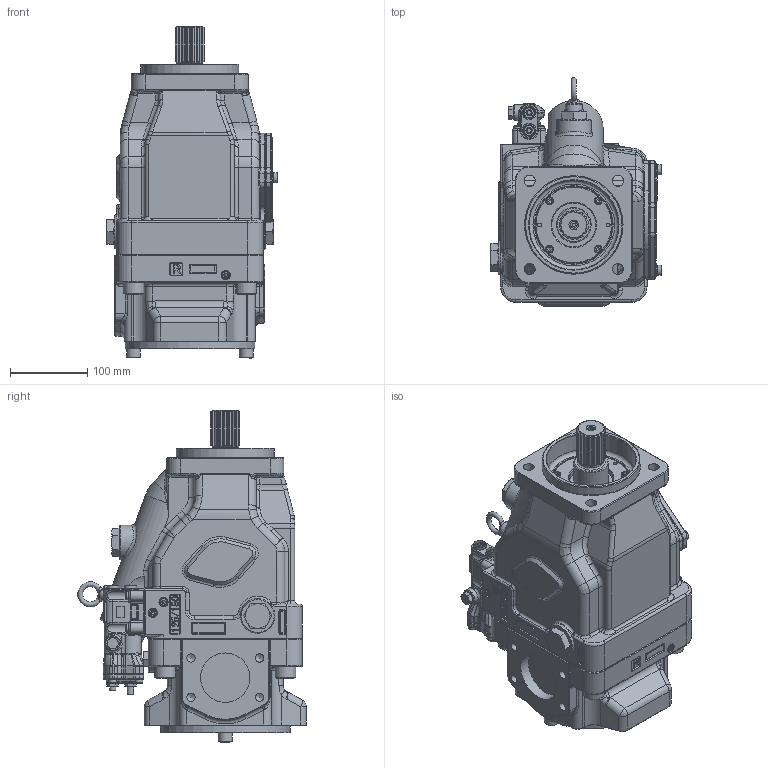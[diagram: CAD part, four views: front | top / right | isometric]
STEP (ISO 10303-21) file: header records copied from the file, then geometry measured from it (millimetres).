
FILE_DESCRIPTION(/* description */ (''),/* implementation_level */ '2;1');
FILE_NAME(/* name */ 'K3VLS150-1NLCCH-L1A.stp',/* time_stamp */ '2025-10-07T15:19:57+01:00',/* author */ ('jhatcher'),/* organization */ (''),/* preprocessor_version */ 'ST-DEVELOPER v20',/* originating_system */ 'Autodesk Inventor 2024',/* authorisation */ '');
FILE_SCHEMA (('AUTOMOTIVE_DESIGN { 1 0 10303 214 3 1 1 }'));
Products named in the file (1): K3VLS150-1NLCCH-L1A
Bounding box: 222.31 x 296.29 x 430.5 mm (x, y, z)
Volume: 11426548.6 mm3; surface area: 442832.3 mm2
Topology: 1 solids, 1 shells, 3051 faces, 7658 edges, 4738 vertices
Faces by surface type: plane 1353, bspline 601, cylinder 581, cone 355, torus 149, sphere 12
Full cylindrical faces by diameter (mm): 4 x4, 4.917 x2, 6.2 x1, 8 x2, 9.4 x4, 10 x12, 10.106 x4, 10.592 x8, 11 x8, 12 x4, 13 x2, 14.5 x4, 16 x2, 17 x3, 18 x4, 20 x1, 25 x1, 27 x4, 29 x4, 32 x1, 32.5 x1, 45 x2, 47 x1, 57 x1, 64 x1, 100 x1, 102 x1, 106 x1, 116 x1, 127 x1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
Entity records: 106081 total; most frequent: CARTESIAN_POINT 37059, ORIENTED_EDGE 15172, DIRECTION 12959, EDGE_CURVE 7586, VERTEX_POINT 4738, AXIS2_PLACEMENT_3D 4501, LINE 3957, VECTOR 3957
